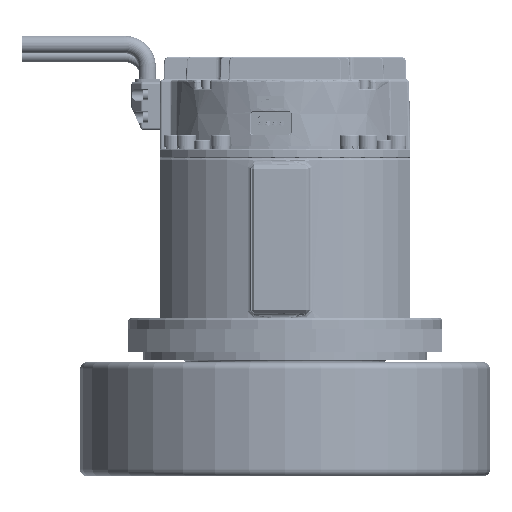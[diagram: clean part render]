
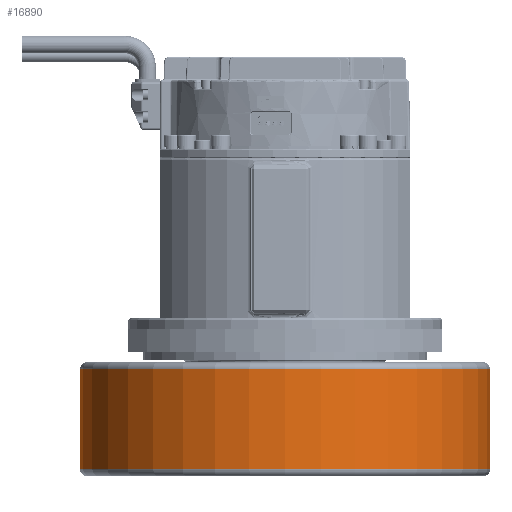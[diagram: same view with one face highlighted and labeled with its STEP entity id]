
A CAD part, left-side view. The second image highlights one B-rep face of the part: STEP entity #16890.
In plain terms, the highlighted cylindrical face has radius 90 mm (diameter 180 mm), a partial arc.
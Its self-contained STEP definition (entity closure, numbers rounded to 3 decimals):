
#3733 = CARTESIAN_POINT ( 'NONE',  ( 0., 90., -222.197 ) ) ;
#4442 = ORIENTED_EDGE ( 'NONE', *, *, #101831, .T. ) ;
#7317 = VERTEX_POINT ( 'NONE', #100094 ) ;
#9398 = EDGE_CURVE ( 'NONE', #7317, #73802, #107530, .T. ) ;
#13105 = ORIENTED_EDGE ( 'NONE', *, *, #9398, .F. ) ;
#14830 = DIRECTION ( 'NONE',  ( 0., 0., -1. ) ) ;
#16890 = ADVANCED_FACE ( 'NONE', ( #40545 ), #83169, .T. ) ;
#17377 = ORIENTED_EDGE ( 'NONE', *, *, #34677, .F. ) ;
#18646 = CARTESIAN_POINT ( 'NONE',  ( 0., 90., -178.197 ) ) ;
#19856 = AXIS2_PLACEMENT_3D ( 'NONE', #45030, #78374, #36818 ) ;
#31717 = DIRECTION ( 'NONE',  ( 0., 0., -1. ) ) ;
#34677 = EDGE_CURVE ( 'NONE', #60892, #7317, #99515, .T. ) ;
#35926 = AXIS2_PLACEMENT_3D ( 'NONE', #106743, #14830, #99069 ) ;
#36818 = DIRECTION ( 'NONE',  ( 0., 1., 0. ) ) ;
#40545 = FACE_OUTER_BOUND ( 'NONE', #108314, .T. ) ;
#44855 = AXIS2_PLACEMENT_3D ( 'NONE', #107268, #74438, #64635 ) ;
#45030 = CARTESIAN_POINT ( 'NONE',  ( 0., 0., -178.197 ) ) ;
#60892 = VERTEX_POINT ( 'NONE', #69302 ) ;
#61206 = VERTEX_POINT ( 'NONE', #18646 ) ;
#64635 = DIRECTION ( 'NONE',  ( 0., 1., 0. ) ) ;
#68643 = VECTOR ( 'NONE', #106026, 1000. ) ;
#69302 = CARTESIAN_POINT ( 'NONE',  ( 0., -90., -178.197 ) ) ;
#73732 = CARTESIAN_POINT ( 'NONE',  ( 0., 90., -178.197 ) ) ;
#73802 = VERTEX_POINT ( 'NONE', #3733 ) ;
#74438 = DIRECTION ( 'NONE',  ( 0., 0., -1. ) ) ;
#75399 = VECTOR ( 'NONE', #31717, 1000. ) ;
#78374 = DIRECTION ( 'NONE',  ( 0., 0., 1. ) ) ;
#79067 = CIRCLE ( 'NONE', #19856, 90. ) ;
#83169 = CYLINDRICAL_SURFACE ( 'NONE', #44855, 90. ) ;
#86176 = EDGE_CURVE ( 'NONE', #61206, #60892, #79067, .T. ) ;
#89590 = LINE ( 'NONE', #73732, #68643 ) ;
#90101 = ORIENTED_EDGE ( 'NONE', *, *, #86176, .F. ) ;
#99069 = DIRECTION ( 'NONE',  ( 0., -1., 0. ) ) ;
#99515 = LINE ( 'NONE', #100039, #75399 ) ;
#100039 = CARTESIAN_POINT ( 'NONE',  ( 0., -90., -178.197 ) ) ;
#100094 = CARTESIAN_POINT ( 'NONE',  ( 0., -90., -222.197 ) ) ;
#101831 = EDGE_CURVE ( 'NONE', #61206, #73802, #89590, .T. ) ;
#106026 = DIRECTION ( 'NONE',  ( 0., 0., -1. ) ) ;
#106743 = CARTESIAN_POINT ( 'NONE',  ( 0., 0., -222.197 ) ) ;
#107268 = CARTESIAN_POINT ( 'NONE',  ( 0., 0., -175.197 ) ) ;
#107530 = CIRCLE ( 'NONE', #35926, 90. ) ;
#108314 = EDGE_LOOP ( 'NONE', ( #17377, #90101, #4442, #13105 ) ) ;
